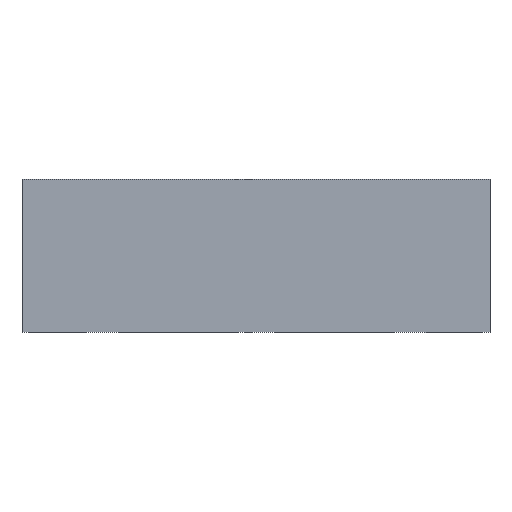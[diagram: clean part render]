
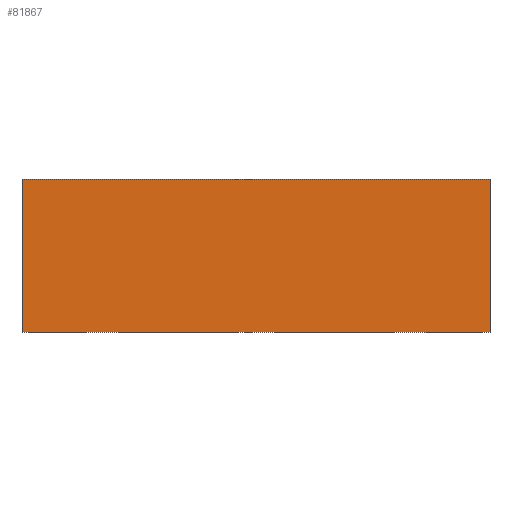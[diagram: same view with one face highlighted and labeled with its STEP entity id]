
A CAD part, front view. The second image highlights one B-rep face of the part: STEP entity #81867.
In plain terms, the highlighted planar face has unit normal (0, -1, 0).
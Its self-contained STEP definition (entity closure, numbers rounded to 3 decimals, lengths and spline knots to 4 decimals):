
#265=LINE('',#103538,#9268);
#267=LINE('',#103542,#9270);
#268=LINE('',#103544,#9271);
#269=LINE('',#103546,#9272);
#9268=VECTOR('',#88349,1000.);
#9270=VECTOR('',#88353,1000.);
#9271=VECTOR('',#88354,1000.);
#9272=VECTOR('',#88355,1000.);
#18438=ORIENTED_EDGE('',*,*,#36284,.T.);
#18439=ORIENTED_EDGE('',*,*,#36286,.F.);
#18440=ORIENTED_EDGE('',*,*,#36287,.F.);
#18441=ORIENTED_EDGE('',*,*,#36288,.T.);
#36284=EDGE_CURVE('',#45209,#45208,#265,.T.);
#36286=EDGE_CURVE('',#45210,#45208,#267,.T.);
#36287=EDGE_CURVE('',#45211,#45210,#268,.T.);
#36288=EDGE_CURVE('',#45211,#45209,#269,.T.);
#45208=VERTEX_POINT('',#103537);
#45209=VERTEX_POINT('',#103539);
#45210=VERTEX_POINT('',#103543);
#45211=VERTEX_POINT('',#103545);
#51153=EDGE_LOOP('',(#18438,#18439,#18440,#18441));
#54270=FACE_BOUND('',#51153,.T.);
#57385=PLANE('',#84934);
#81867=ADVANCED_FACE('',(#54270),#57385,.T.);
#84934=AXIS2_PLACEMENT_3D('',#103541,#88351,#88352);
#88349=DIRECTION('',(0.,0.,1.));
#88351=DIRECTION('',(0.,-1.,0.));
#88352=DIRECTION('',(0.,0.,-1.));
#88353=DIRECTION('',(1.,0.,0.));
#88354=DIRECTION('',(0.,0.,1.));
#88355=DIRECTION('',(1.,0.,0.));
#103537=CARTESIAN_POINT('',(4.5,-4.5,2.7));
#103538=CARTESIAN_POINT('',(4.5,-4.5,-0.25));
#103539=CARTESIAN_POINT('',(4.5,-4.5,-0.25));
#103541=CARTESIAN_POINT('',(-4.5,-4.5,-0.25));
#103542=CARTESIAN_POINT('',(-4.5,-4.5,2.7));
#103543=CARTESIAN_POINT('',(-4.5,-4.5,2.7));
#103544=CARTESIAN_POINT('',(-4.5,-4.5,-0.25));
#103545=CARTESIAN_POINT('',(-4.5,-4.5,-0.25));
#103546=CARTESIAN_POINT('',(-4.5,-4.5,-0.25));
